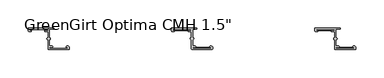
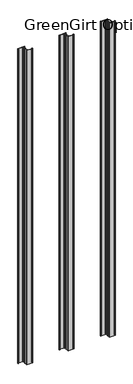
"""IFC4 building model written with IfcOpenShell, lengths in millimetres: fastener geometry."""

from ifc_helpers import new_model, si_unit, frame, origin, origin_with_axes, place, context, project, spatial, polyline, circle_curve, outline, extrude, source, transform, mapped, element, save
from ifc_brep_helpers import plane_surface, cylinder_surface, revolved_surface, advanced_brep


def fastener_85142412(model_context):
    return source(origin(), model_context, "Body", "SolidModel", [
        advanced_brep(
        [(2340.102, -2.794, 2032.0), (2371.471, -2.794, 2032.0), (2371.471, -4.5212, 2032.0), (2367.28, -4.5212, 2032.0), (2367.28, -6.5532, 2032.0), (2371.471, -6.5532, 2032.0), (2372.233, -7.3152, 2032.0), (2372.233, -17.7601563, 2032.0), (2371.3845567, -17.7601563, 2032.0), (2371.3845567, -20.4288947, 2032.0), (2372.233, -20.4288947, 2032.0), (2372.233, -37.3379766, 2032.0), (2372.995, -38.0999766, 2032.0), (2408.8513242, -38.1, 2032.0), (2409.571, -37.3379766, 2032.0), (2409.571, -34.4677766, 2032.0), (2407.539, -32.4357766, 2032.0), (2405.253, -32.4357766, 2032.0), (2405.253, -34.4677766, 2032.0), (2406.269, -34.4677766, 2032.0), (2406.269, -36.1949766, 2032.0), (2374.9, -36.1949766, 2032.0), (2374.9, -34.4677766, 2032.0), (2379.091, -34.4677766, 2032.0), (2379.091, -32.4357766, 2032.0), (2374.9, -32.4357766, 2032.0), (2374.138, -31.6737766, 2032.0), (2374.138, -20.4279799, 2032.0), (2374.9869007, -20.4279799, 2032.0), (2374.9869007, -17.7601563, 2032.0), (2374.138, -17.7601563, 2032.0), (2374.138, -2.667, 2032.0), (2374.9, -1.905, 2032.0), (2380.996, -1.905, 2032.0), (2380.996, 0.0, 2032.0), (2337.562, 0.0, 2032.0), (2336.8, -0.762, 2032.0), (2336.8, -4.5212, 2032.0), (2338.832, -6.5532, 2032.0), (2341.118, -6.5532, 2032.0), (2341.118, -4.5212, 2032.0), (2340.102, -4.5212, 2032.0), (2340.102, -2.794, 0.0), (2340.102, -4.5212, 0.0), (2341.118, -4.5212, 0.0), (2341.118, -6.5532, 0.0), (2338.832, -6.5532, 0.0), (2336.8, -4.5212, 0.0), (2336.8, -0.762, 0.0), (2337.562, 0.0, 0.0), (2380.996, 0.0, 0.0), (2380.996, -1.905, 0.0), (2374.9, -1.905, 0.0), (2374.138, -2.667, 0.0), (2374.138, -17.7601563, 0.0), (2374.9869007, -17.7601563, 0.0), (2374.9869007, -20.4279799, 0.0), (2374.138, -20.4279799, 0.0), (2374.138, -31.6737766, 0.0), (2374.9, -32.4357766, 0.0), (2379.091, -32.4357766, 0.0), (2379.091, -34.4677766, 0.0), (2374.9, -34.4677766, 0.0), (2374.9, -36.1949766, 0.0), (2406.269, -36.1949766, 0.0), (2406.269, -34.4677766, 0.0), (2405.253, -34.4677766, 0.0), (2405.253, -32.4357766, 0.0), (2407.539, -32.4357766, 0.0), (2409.571, -34.4677766, 0.0), (2409.571, -37.3379766, 0.0), (2408.809, -38.0999766, 0.0), (2372.9676774, -38.1, 0.0), (2372.233, -37.3379766, 0.0), (2372.233, -20.4288947, 0.0), (2371.3845567, -20.4288947, 0.0), (2371.3845567, -17.7601563, 0.0), (2372.233, -17.7601563, 0.0), (2372.233, -7.3152, 0.0), (2371.471, -6.5532, 0.0), (2367.28, -6.5532, 0.0), (2367.28, -4.5212, 0.0), (2371.471, -4.5212, 0.0), (2371.471, -2.794, 0.0)],
        [
            (0, 1),
            (1, 2, circle_curve(frame((2371.471, -3.6576, 2032.0), z_axis=(0.0, 0.0, -1.0), x_axis=(1.0, 0.0, 0.0)), 0.8636)),
            (2, 3),
            (3, 4, circle_curve(frame((2367.28, -5.5372, 2032.0), z_axis=(0.0, 0.0, 1.0), x_axis=(1.0, 0.0, 0.0)), 1.016)),
            (4, 5),
            (5, 6, circle_curve(frame((2371.471, -7.3152, 2032.0), z_axis=(0.0, 0.0, -1.0), x_axis=(1.0, 0.0, 0.0)), 0.762)),
            (6, 7),
            (7, 8),
            (8, 9, circle_curve(frame((2371.3845567, -19.0945255, 2032.0), z_axis=(0.0, 0.0, 1.0), x_axis=(1.0, 0.0, 0.0)), 1.3343692)),
            (9, 10),
            (10, 11),
            (11, 12, circle_curve(frame((2372.995, -37.3379766, 2032.0), z_axis=(0.0, 0.0, 1.0), x_axis=(1.0, 0.0, 0.0)), 0.762)),
            (12, 13),
            (13, 14, circle_curve(frame((2408.809, -37.3379766, 2032.0), z_axis=(0.0, 0.0, 1.0), x_axis=(1.0, 0.0, 0.0)), 0.762)),
            (14, 15),
            (15, 16, circle_curve(frame((2407.539, -34.4677766, 2032.0), z_axis=(0.0, 0.0, 1.0), x_axis=(1.0, 0.0, 0.0)), 2.032)),
            (16, 17),
            (17, 18, circle_curve(frame((2405.253, -33.4517766, 2032.0), z_axis=(0.0, 0.0, 1.0), x_axis=(1.0, 0.0, 0.0)), 1.016)),
            (18, 19),
            (19, 20, circle_curve(frame((2406.269, -35.3313766, 2032.0), z_axis=(0.0, 0.0, -1.0), x_axis=(1.0, 0.0, 0.0)), 0.8636)),
            (20, 21),
            (21, 22, circle_curve(frame((2374.9, -35.3313766, 2032.0), z_axis=(0.0, 0.0, -1.0), x_axis=(1.0, 0.0, 0.0)), 0.8636)),
            (22, 23),
            (23, 24, circle_curve(frame((2379.091, -33.4517766, 2032.0), z_axis=(0.0, 0.0, 1.0), x_axis=(1.0, 0.0, 0.0)), 1.016)),
            (24, 25),
            (25, 26, circle_curve(frame((2374.9, -31.6737766, 2032.0), z_axis=(0.0, 0.0, -1.0), x_axis=(1.0, 0.0, 0.0)), 0.762)),
            (26, 27),
            (27, 28),
            (28, 29, circle_curve(frame((2374.9869007, -19.0940681, 2032.0), z_axis=(0.0, 0.0, 1.0), x_axis=(1.0, 0.0, 0.0)), 1.3339118)),
            (29, 30),
            (30, 31),
            (31, 32, circle_curve(frame((2374.9, -2.667, 2032.0), z_axis=(0.0, 0.0, -1.0), x_axis=(1.0, 0.0, 0.0)), 0.762)),
            (32, 33),
            (33, 34, circle_curve(frame((2380.996, -0.9525, 2032.0), z_axis=(0.0, 0.0, 1.0), x_axis=(1.0, 0.0, 0.0)), 0.9525)),
            (34, 35),
            (35, 36, circle_curve(frame((2337.562, -0.762, 2032.0), z_axis=(0.0, 0.0, 1.0), x_axis=(1.0, 0.0, 0.0)), 0.762)),
            (36, 37),
            (37, 38, circle_curve(frame((2338.832, -4.5212, 2032.0), z_axis=(0.0, 0.0, 1.0), x_axis=(1.0, 0.0, 0.0)), 2.032)),
            (38, 39),
            (39, 40, circle_curve(frame((2341.118, -5.5372, 2032.0), z_axis=(0.0, 0.0, 1.0), x_axis=(1.0, 0.0, 0.0)), 1.016)),
            (40, 41),
            (41, 0, circle_curve(frame((2340.102, -3.6576, 2032.0), z_axis=(0.0, 0.0, -1.0), x_axis=(1.0, 0.0, 0.0)), 0.8636)),
            (42, 43, circle_curve(frame((2340.102, -3.6576, 0.0), z_axis=(0.0, 0.0, 1.0), x_axis=(1.0, 0.0, 0.0)), 0.8636)),
            (43, 44),
            (44, 45, circle_curve(frame((2341.118, -5.5372, 0.0), z_axis=(0.0, 0.0, -1.0), x_axis=(1.0, 0.0, 0.0)), 1.016)),
            (45, 46),
            (46, 47, circle_curve(frame((2338.832, -4.5212, 0.0), z_axis=(0.0, 0.0, -1.0), x_axis=(1.0, 0.0, 0.0)), 2.032)),
            (47, 48),
            (48, 49, circle_curve(frame((2337.562, -0.762, 0.0), z_axis=(0.0, 0.0, -1.0), x_axis=(1.0, 0.0, 0.0)), 0.762)),
            (49, 50),
            (50, 51, circle_curve(frame((2380.996, -0.9525, 0.0), z_axis=(0.0, 0.0, -1.0), x_axis=(1.0, 0.0, 0.0)), 0.9525)),
            (51, 52),
            (52, 53, circle_curve(frame((2374.9, -2.667, 0.0), z_axis=(0.0, 0.0, 1.0), x_axis=(1.0, 0.0, 0.0)), 0.762)),
            (53, 54),
            (54, 55),
            (55, 56, circle_curve(frame((2374.9869007, -19.0940681, 0.0), z_axis=(0.0, 0.0, -1.0), x_axis=(1.0, 0.0, 0.0)), 1.3339118)),
            (56, 57),
            (57, 58),
            (58, 59, circle_curve(frame((2374.9, -31.6737766, 0.0), z_axis=(0.0, 0.0, 1.0), x_axis=(1.0, 0.0, 0.0)), 0.762)),
            (59, 60),
            (60, 61, circle_curve(frame((2379.091, -33.4517766, 0.0), z_axis=(0.0, 0.0, -1.0), x_axis=(1.0, 0.0, 0.0)), 1.016)),
            (61, 62),
            (62, 63, circle_curve(frame((2374.9, -35.3313766, 0.0), z_axis=(0.0, 0.0, 1.0), x_axis=(1.0, 0.0, 0.0)), 0.8636)),
            (63, 64),
            (64, 65, circle_curve(frame((2406.269, -35.3313766, 0.0), z_axis=(0.0, 0.0, 1.0), x_axis=(1.0, 0.0, 0.0)), 0.8636)),
            (65, 66),
            (66, 67, circle_curve(frame((2405.253, -33.4517766, 0.0), z_axis=(0.0, 0.0, -1.0), x_axis=(1.0, 0.0, 0.0)), 1.016)),
            (67, 68),
            (68, 69, circle_curve(frame((2407.539, -34.4677766, 0.0), z_axis=(0.0, 0.0, -1.0), x_axis=(1.0, 0.0, 0.0)), 2.032)),
            (69, 70),
            (70, 71, circle_curve(frame((2408.809, -37.3379766, 0.0), z_axis=(0.0, 0.0, -1.0), x_axis=(1.0, 0.0, 0.0)), 0.762)),
            (71, 72),
            (72, 73, circle_curve(frame((2372.995, -37.3379766, 0.0), z_axis=(0.0, 0.0, -1.0), x_axis=(1.0, 0.0, 0.0)), 0.762)),
            (73, 74),
            (74, 75),
            (75, 76, circle_curve(frame((2371.3845567, -19.0945255, 0.0), z_axis=(0.0, 0.0, -1.0), x_axis=(1.0, 0.0, 0.0)), 1.3343692)),
            (76, 77),
            (77, 78),
            (78, 79, circle_curve(frame((2371.471, -7.3152, 0.0), z_axis=(0.0, 0.0, 1.0), x_axis=(1.0, 0.0, 0.0)), 0.762)),
            (79, 80),
            (80, 81, circle_curve(frame((2367.28, -5.5372, 0.0), z_axis=(0.0, 0.0, -1.0), x_axis=(1.0, 0.0, 0.0)), 1.016)),
            (81, 82),
            (82, 83, circle_curve(frame((2371.471, -3.6576, 0.0), z_axis=(0.0, 0.0, 1.0), x_axis=(1.0, 0.0, 0.0)), 0.8636)),
            (83, 42),
            (0, 42),
            (83, 1),
            (82, 2),
            (81, 3),
            (80, 4),
            (79, 5),
            (78, 6),
            (77, 7),
            (76, 8),
            (75, 9),
            (74, 10),
            (73, 11),
            (72, 12),
            (71, 13),
            (70, 14),
            (69, 15),
            (68, 16),
            (67, 17),
            (66, 18),
            (65, 19),
            (64, 20),
            (63, 21),
            (62, 22),
            (61, 23),
            (60, 24),
            (59, 25),
            (58, 26),
            (57, 27),
            (56, 28),
            (55, 29),
            (54, 30),
            (53, 31),
            (52, 32),
            (51, 33),
            (50, 34),
            (49, 35),
            (48, 36),
            (47, 37),
            (46, 38),
            (45, 39),
            (44, 40),
            (43, 41),
        ],
        [
            plane_surface(frame((2371.471, -2.794, 2032.0), z_axis=(0.0, 0.0, 1.0), x_axis=(1.0, 0.0, 0.0))),
            plane_surface(frame((2371.471, -2.794, 0.0), z_axis=(0.0, 0.0, -1.0), x_axis=(-1.0, 0.0, 0.0))),
            plane_surface(frame((2340.102, -2.794, 2032.0), z_axis=(0.0, -1.0, 0.0), x_axis=(0.0, 0.0, -1.0))),
            revolved_surface(polyline([(2372.3346, -3.6576, 0.0), (2372.3346, -3.6576, 2032.0)]), (2371.471, -3.6576, 0.0), (0.0, 0.0, -1.0)),
            plane_surface(frame((2371.471, -4.5212, 2032.0), z_axis=(0.0, 1.0, 0.0), x_axis=(0.0, 0.0, -1.0))),
            cylinder_surface(frame((2367.28, -5.5372, 0.0), z_axis=(0.0, 0.0, 1.0), x_axis=(1.0, 0.0, 0.0)), 1.016),
            plane_surface(frame((2367.28, -6.5532, 2032.0), z_axis=(0.0, -1.0, 0.0), x_axis=(0.0, 0.0, -1.0))),
            revolved_surface(polyline([(2372.233, -7.3152, 0.0), (2372.233, -7.3152, 2032.0)]), (2371.471, -7.3152, 0.0), (0.0, 0.0, -1.0)),
            plane_surface(frame((2372.233, -7.3152, 2032.0), z_axis=(-1.0, 0.0, 0.0), x_axis=(0.0, 0.0, -1.0))),
            plane_surface(frame((2372.233, -17.7601563, 2032.0), z_axis=(0.0, 1.0, 0.0), x_axis=(0.0, 0.0, -1.0))),
            cylinder_surface(frame((2371.3845567, -19.0945255, 0.0), z_axis=(0.0, 0.0, 1.0), x_axis=(1.0, 0.0, 0.0)), 1.3343692),
            plane_surface(frame((2371.3845567, -20.4288947, 2032.0), z_axis=(0.0, -1.0, 0.0), x_axis=(0.0, 0.0, -1.0))),
            plane_surface(frame((2372.233, -20.4288947, 2032.0), z_axis=(-1.0, 0.0, 0.0), x_axis=(0.0, 0.0, -1.0))),
            cylinder_surface(frame((2372.995, -37.3379766, 0.0), z_axis=(0.0, 0.0, 1.0), x_axis=(1.0, 0.0, 0.0)), 0.762),
            plane_surface(frame((2372.9676774, -38.1, 2032.0), z_axis=(0.0, -1.0, 0.0), x_axis=(0.0, 0.0, -1.0))),
            cylinder_surface(frame((2408.809, -37.3379766, 0.0), z_axis=(0.0, 0.0, 1.0), x_axis=(1.0, 0.0, 0.0)), 0.762),
            plane_surface(frame((2409.571, -37.3379766, 2032.0), z_axis=(1.0, 1.3794275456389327e-12, 0.0), x_axis=(0.0, 0.0, -1.0))),
            cylinder_surface(frame((2407.539, -34.4677766, 0.0), z_axis=(0.0, 0.0, 1.0), x_axis=(1.0, 0.0, 0.0)), 2.032),
            plane_surface(frame((2407.539, -32.4357766, 2032.0), z_axis=(0.0, 1.0, 0.0), x_axis=(0.0, 0.0, -1.0))),
            cylinder_surface(frame((2405.253, -33.4517766, 0.0), z_axis=(0.0, 0.0, 1.0), x_axis=(1.0, 0.0, 0.0)), 1.016),
            plane_surface(frame((2405.253, -34.4677766, 2032.0), z_axis=(0.0, -1.0, 0.0), x_axis=(0.0, 0.0, -1.0))),
            revolved_surface(polyline([(2407.1326, -35.3313766, 0.0), (2407.1326, -35.3313766, 2032.0)]), (2406.269, -35.3313766, 0.0), (0.0, 0.0, -1.0)),
            plane_surface(frame((2406.269, -36.1949766, 2032.0), z_axis=(0.0, 1.0, 0.0), x_axis=(0.0, 0.0, -1.0))),
            revolved_surface(polyline([(2375.7636, -35.3313766, 0.0), (2375.7636, -35.3313766, 2032.0)]), (2374.9, -35.3313766, 0.0), (0.0, 0.0, -1.0)),
            plane_surface(frame((2374.9, -34.4677766, 2032.0), z_axis=(0.0, -1.0, 0.0), x_axis=(0.0, 0.0, -1.0))),
            cylinder_surface(frame((2379.091, -33.4517766, 0.0), z_axis=(0.0, 0.0, 1.0), x_axis=(1.0, 0.0, 0.0)), 1.016),
            plane_surface(frame((2379.091, -32.4357766, 2032.0), z_axis=(0.0, 1.0, 0.0), x_axis=(0.0, 0.0, -1.0))),
            revolved_surface(polyline([(2375.6620000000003, -31.6737766, 0.0), (2375.6620000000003, -31.6737766, 2032.0)]), (2374.9, -31.6737766, 0.0), (0.0, 0.0, -1.0)),
            plane_surface(frame((2374.138, -31.6737766, 2032.0), z_axis=(1.0, 0.0, 0.0), x_axis=(0.0, 0.0, -1.0))),
            plane_surface(frame((2374.138, -20.4279799, 2032.0), z_axis=(0.0, -1.0, 0.0), x_axis=(0.0, 0.0, -1.0))),
            cylinder_surface(frame((2374.9869007, -19.0940681, 0.0), z_axis=(0.0, 0.0, 1.0), x_axis=(1.0, 0.0, 0.0)), 1.3339118),
            plane_surface(frame((2374.9869007, -17.7601563, 2032.0), z_axis=(0.0, 1.0, 0.0), x_axis=(0.0, 0.0, -1.0))),
            plane_surface(frame((2374.138, -17.7601563, 2032.0), z_axis=(1.0, 0.0, 0.0), x_axis=(0.0, 0.0, -1.0))),
            revolved_surface(polyline([(2375.6620000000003, -2.667, 0.0), (2375.6620000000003, -2.667, 2032.0)]), (2374.9, -2.667, 0.0), (0.0, 0.0, -1.0)),
            plane_surface(frame((2374.9, -1.905, 2032.0), z_axis=(0.0, -1.0, 0.0), x_axis=(0.0, 0.0, -1.0))),
            cylinder_surface(frame((2380.996, -0.9525, 0.0), z_axis=(0.0, 0.0, 1.0), x_axis=(1.0, 0.0, 0.0)), 0.9525),
            plane_surface(frame((2380.996, 0.0, 2032.0), z_axis=(0.0, 1.0, 0.0), x_axis=(0.0, 0.0, -1.0))),
            cylinder_surface(frame((2337.562, -0.762, 0.0), z_axis=(0.0, 0.0, 1.0), x_axis=(1.0, 0.0, 0.0)), 0.762),
            plane_surface(frame((2336.8, -0.762, 2032.0), z_axis=(-1.0, 2.681638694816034e-11, 0.0), x_axis=(0.0, 0.0, -1.0))),
            cylinder_surface(frame((2338.832, -4.5212, 0.0), z_axis=(0.0, 0.0, 1.0), x_axis=(1.0, 0.0, 0.0)), 2.032),
            plane_surface(frame((2338.832, -6.5532, 2032.0), z_axis=(0.0, -1.0, 0.0), x_axis=(0.0, 0.0, -1.0))),
            cylinder_surface(frame((2341.118, -5.5372, 0.0), z_axis=(0.0, 0.0, 1.0), x_axis=(1.0, 0.0, 0.0)), 1.016),
            plane_surface(frame((2341.118, -4.5212, 2032.0), z_axis=(0.0, 1.0, 0.0), x_axis=(0.0, 0.0, -1.0))),
            revolved_surface(polyline([(2340.9656, -3.6576, 0.0), (2340.9656, -3.6576, 2032.0)]), (2340.102, -3.6576, 0.0), (0.0, 0.0, -1.0)),
        ],
        [
            (0, [[1, 2, 3, 4, 5, 6, 7, 8, 9, 10, 11, 12, 13, 14, 15, 16, 17, 18, 19, 20, 21, 22, 23, 24, 25, 26, 27, 28, 29, 30, 31, 32, 33, 34, 35, 36, 37, 38, 39, 40, 41, 42]]),
            (1, [[43, 44, 45, 46, 47, 48, 49, 50, 51, 52, 53, 54, 55, 56, 57, 58, 59, 60, 61, 62, 63, 64, 65, 66, 67, 68, 69, 70, 71, 72, 73, 74, 75, 76, 77, 78, 79, 80, 81, 82, 83, 84]]),
            (2, [[-1, 85, -84, 86]]),
            (3, [[-2, -86, -83, 87]]),
            (4, [[-3, -87, -82, 88]]),
            (5, [[-4, -88, -81, 89]]),
            (6, [[-5, -89, -80, 90]]),
            (7, [[-6, -90, -79, 91]]),
            (8, [[-7, -91, -78, 92]]),
            (9, [[-8, -92, -77, 93]]),
            (10, [[-9, -93, -76, 94]]),
            (11, [[-10, -94, -75, 95]]),
            (12, [[-11, -95, -74, 96]]),
            (13, [[-12, -96, -73, 97]]),
            (14, [[-13, -97, -72, 98]]),
            (15, [[-14, -98, -71, 99]]),
            (16, [[-15, -99, -70, 100]]),
            (17, [[-16, -100, -69, 101]]),
            (18, [[-17, -101, -68, 102]]),
            (19, [[-18, -102, -67, 103]]),
            (20, [[-19, -103, -66, 104]]),
            (21, [[-20, -104, -65, 105]]),
            (22, [[-21, -105, -64, 106]]),
            (23, [[-22, -106, -63, 107]]),
            (24, [[-23, -107, -62, 108]]),
            (25, [[-24, -108, -61, 109]]),
            (26, [[-25, -109, -60, 110]]),
            (27, [[-26, -110, -59, 111]]),
            (28, [[-27, -111, -58, 112]]),
            (29, [[-28, -112, -57, 113]]),
            (30, [[-29, -113, -56, 114]]),
            (31, [[-30, -114, -55, 115]]),
            (32, [[-31, -115, -54, 116]]),
            (33, [[-32, -116, -53, 117]]),
            (34, [[-33, -117, -52, 118]]),
            (35, [[-34, -118, -51, 119]]),
            (36, [[-35, -119, -50, 120]]),
            (37, [[-36, -120, -49, 121]]),
            (38, [[-37, -121, -48, 122]]),
            (39, [[-38, -122, -47, 123]]),
            (40, [[-39, -123, -46, 124]]),
            (41, [[-40, -124, -45, 125]]),
            (42, [[-41, -125, -44, 126]]),
            (43, [[-42, -126, -43, -85]]),
        ],
    ),
        extrude(outline(polyline([(2371.09, -2.794), (2371.09, -4.5212), (2340.102, -4.5212), (2340.102, -2.794), (2371.09, -2.794)])), origin_with_axes(), (0.0, 0.0, 1.0), 2032.0),
        extrude(outline(polyline([(2406.269, -34.4677766), (2406.269, -36.1949766), (2375.281, -36.1949766), (2375.281, -34.4677766), (2406.269, -34.4677766)])), origin_with_axes(), (0.0, 0.0, 1.0), 2032.0),
        advanced_brep(
        [(2086.102, -2.794, 2032.0), (2117.471, -2.794, 2032.0), (2117.471, -4.5212, 2032.0), (2113.28, -4.5212, 2032.0), (2113.28, -6.5532, 2032.0), (2117.471, -6.5532, 2032.0), (2118.233, -7.3152, 2032.0), (2118.233, -17.7601563, 2032.0), (2117.3845567, -17.7601563, 2032.0), (2117.3845567, -20.4288947, 2032.0), (2118.233, -20.4288947, 2032.0), (2118.233, -37.3379766, 2032.0), (2118.995, -38.0999766, 2032.0), (2154.8513242, -38.1, 2032.0), (2155.571, -37.3379766, 2032.0), (2155.571, -34.4677766, 2032.0), (2153.539, -32.4357766, 2032.0), (2151.253, -32.4357766, 2032.0), (2151.253, -34.4677766, 2032.0), (2152.269, -34.4677766, 2032.0), (2152.269, -36.1949766, 2032.0), (2120.9, -36.1949766, 2032.0), (2120.9, -34.4677766, 2032.0), (2125.091, -34.4677766, 2032.0), (2125.091, -32.4357766, 2032.0), (2120.9, -32.4357766, 2032.0), (2120.138, -31.6737766, 2032.0), (2120.138, -20.4279799, 2032.0), (2120.9869007, -20.4279799, 2032.0), (2120.9869007, -17.7601563, 2032.0), (2120.138, -17.7601563, 2032.0), (2120.138, -2.667, 2032.0), (2120.9, -1.905, 2032.0), (2126.996, -1.905, 2032.0), (2126.996, 0.0, 2032.0), (2083.562, 0.0, 2032.0), (2082.8, -0.762, 2032.0), (2082.8, -4.5212, 2032.0), (2084.832, -6.5532, 2032.0), (2087.118, -6.5532, 2032.0), (2087.118, -4.5212, 2032.0), (2086.102, -4.5212, 2032.0), (2086.102, -2.794, 0.0), (2086.102, -4.5212, 0.0), (2087.118, -4.5212, 0.0), (2087.118, -6.5532, 0.0), (2084.832, -6.5532, 0.0), (2082.8, -4.5212, 0.0), (2082.8, -0.762, 0.0), (2083.562, 0.0, 0.0), (2126.996, 0.0, 0.0), (2126.996, -1.905, 0.0), (2120.9, -1.905, 0.0), (2120.138, -2.667, 0.0), (2120.138, -17.7601563, 0.0), (2120.9869007, -17.7601563, 0.0), (2120.9869007, -20.4279799, 0.0), (2120.138, -20.4279799, 0.0), (2120.138, -31.6737766, 0.0), (2120.9, -32.4357766, 0.0), (2125.091, -32.4357766, 0.0), (2125.091, -34.4677766, 0.0), (2120.9, -34.4677766, 0.0), (2120.9, -36.1949766, 0.0), (2152.269, -36.1949766, 0.0), (2152.269, -34.4677766, 0.0), (2151.253, -34.4677766, 0.0), (2151.253, -32.4357766, 0.0), (2153.539, -32.4357766, 0.0), (2155.571, -34.4677766, 0.0), (2155.571, -37.3379766, 0.0), (2154.809, -38.0999766, 0.0), (2118.9676774, -38.1, 0.0), (2118.233, -37.3379766, 0.0), (2118.233, -20.4288947, 0.0), (2117.3845567, -20.4288947, 0.0), (2117.3845567, -17.7601563, 0.0), (2118.233, -17.7601563, 0.0), (2118.233, -7.3152, 0.0), (2117.471, -6.5532, 0.0), (2113.28, -6.5532, 0.0), (2113.28, -4.5212, 0.0), (2117.471, -4.5212, 0.0), (2117.471, -2.794, 0.0)],
        [
            (0, 1),
            (1, 2, circle_curve(frame((2117.471, -3.6576, 2032.0), z_axis=(0.0, 0.0, -1.0), x_axis=(1.0, 0.0, 0.0)), 0.8636)),
            (2, 3),
            (3, 4, circle_curve(frame((2113.28, -5.5372, 2032.0), z_axis=(0.0, 0.0, 1.0), x_axis=(1.0, 0.0, 0.0)), 1.016)),
            (4, 5),
            (5, 6, circle_curve(frame((2117.471, -7.3152, 2032.0), z_axis=(0.0, 0.0, -1.0), x_axis=(1.0, 0.0, 0.0)), 0.762)),
            (6, 7),
            (7, 8),
            (8, 9, circle_curve(frame((2117.3845567, -19.0945255, 2032.0), z_axis=(0.0, 0.0, 1.0), x_axis=(1.0, 0.0, 0.0)), 1.3343692)),
            (9, 10),
            (10, 11),
            (11, 12, circle_curve(frame((2118.995, -37.3379766, 2032.0), z_axis=(0.0, 0.0, 1.0), x_axis=(1.0, 0.0, 0.0)), 0.762)),
            (12, 13),
            (13, 14, circle_curve(frame((2154.809, -37.3379766, 2032.0), z_axis=(0.0, 0.0, 1.0), x_axis=(1.0, 0.0, 0.0)), 0.762)),
            (14, 15),
            (15, 16, circle_curve(frame((2153.539, -34.4677766, 2032.0), z_axis=(0.0, 0.0, 1.0), x_axis=(1.0, 0.0, 0.0)), 2.032)),
            (16, 17),
            (17, 18, circle_curve(frame((2151.253, -33.4517766, 2032.0), z_axis=(0.0, 0.0, 1.0), x_axis=(1.0, 0.0, 0.0)), 1.016)),
            (18, 19),
            (19, 20, circle_curve(frame((2152.269, -35.3313766, 2032.0), z_axis=(0.0, 0.0, -1.0), x_axis=(1.0, 0.0, 0.0)), 0.8636)),
            (20, 21),
            (21, 22, circle_curve(frame((2120.9, -35.3313766, 2032.0), z_axis=(0.0, 0.0, -1.0), x_axis=(1.0, 0.0, 0.0)), 0.8636)),
            (22, 23),
            (23, 24, circle_curve(frame((2125.091, -33.4517766, 2032.0), z_axis=(0.0, 0.0, 1.0), x_axis=(1.0, 0.0, 0.0)), 1.016)),
            (24, 25),
            (25, 26, circle_curve(frame((2120.9, -31.6737766, 2032.0), z_axis=(0.0, 0.0, -1.0), x_axis=(1.0, 0.0, 0.0)), 0.762)),
            (26, 27),
            (27, 28),
            (28, 29, circle_curve(frame((2120.9869007, -19.0940681, 2032.0), z_axis=(0.0, 0.0, 1.0), x_axis=(1.0, 0.0, 0.0)), 1.3339118)),
            (29, 30),
            (30, 31),
            (31, 32, circle_curve(frame((2120.9, -2.667, 2032.0), z_axis=(0.0, 0.0, -1.0), x_axis=(1.0, 0.0, 0.0)), 0.762)),
            (32, 33),
            (33, 34, circle_curve(frame((2126.996, -0.9525, 2032.0), z_axis=(0.0, 0.0, 1.0), x_axis=(1.0, 0.0, 0.0)), 0.9525)),
            (34, 35),
            (35, 36, circle_curve(frame((2083.562, -0.762, 2032.0), z_axis=(0.0, 0.0, 1.0), x_axis=(1.0, 0.0, 0.0)), 0.762)),
            (36, 37),
            (37, 38, circle_curve(frame((2084.832, -4.5212, 2032.0), z_axis=(0.0, 0.0, 1.0), x_axis=(1.0, 0.0, 0.0)), 2.032)),
            (38, 39),
            (39, 40, circle_curve(frame((2087.118, -5.5372, 2032.0), z_axis=(0.0, 0.0, 1.0), x_axis=(1.0, 0.0, 0.0)), 1.016)),
            (40, 41),
            (41, 0, circle_curve(frame((2086.102, -3.6576, 2032.0), z_axis=(0.0, 0.0, -1.0), x_axis=(1.0, 0.0, 0.0)), 0.8636)),
            (42, 43, circle_curve(frame((2086.102, -3.6576, 0.0), z_axis=(0.0, 0.0, 1.0), x_axis=(1.0, 0.0, 0.0)), 0.8636)),
            (43, 44),
            (44, 45, circle_curve(frame((2087.118, -5.5372, 0.0), z_axis=(0.0, 0.0, -1.0), x_axis=(1.0, 0.0, 0.0)), 1.016)),
            (45, 46),
            (46, 47, circle_curve(frame((2084.832, -4.5212, 0.0), z_axis=(0.0, 0.0, -1.0), x_axis=(1.0, 0.0, 0.0)), 2.032)),
            (47, 48),
            (48, 49, circle_curve(frame((2083.562, -0.762, 0.0), z_axis=(0.0, 0.0, -1.0), x_axis=(1.0, 0.0, 0.0)), 0.762)),
            (49, 50),
            (50, 51, circle_curve(frame((2126.996, -0.9525, 0.0), z_axis=(0.0, 0.0, -1.0), x_axis=(1.0, 0.0, 0.0)), 0.9525)),
            (51, 52),
            (52, 53, circle_curve(frame((2120.9, -2.667, 0.0), z_axis=(0.0, 0.0, 1.0), x_axis=(1.0, 0.0, 0.0)), 0.762)),
            (53, 54),
            (54, 55),
            (55, 56, circle_curve(frame((2120.9869007, -19.0940681, 0.0), z_axis=(0.0, 0.0, -1.0), x_axis=(1.0, 0.0, 0.0)), 1.3339118)),
            (56, 57),
            (57, 58),
            (58, 59, circle_curve(frame((2120.9, -31.6737766, 0.0), z_axis=(0.0, 0.0, 1.0), x_axis=(1.0, 0.0, 0.0)), 0.762)),
            (59, 60),
            (60, 61, circle_curve(frame((2125.091, -33.4517766, 0.0), z_axis=(0.0, 0.0, -1.0), x_axis=(1.0, 0.0, 0.0)), 1.016)),
            (61, 62),
            (62, 63, circle_curve(frame((2120.9, -35.3313766, 0.0), z_axis=(0.0, 0.0, 1.0), x_axis=(1.0, 0.0, 0.0)), 0.8636)),
            (63, 64),
            (64, 65, circle_curve(frame((2152.269, -35.3313766, 0.0), z_axis=(0.0, 0.0, 1.0), x_axis=(1.0, 0.0, 0.0)), 0.8636)),
            (65, 66),
            (66, 67, circle_curve(frame((2151.253, -33.4517766, 0.0), z_axis=(0.0, 0.0, -1.0), x_axis=(1.0, 0.0, 0.0)), 1.016)),
            (67, 68),
            (68, 69, circle_curve(frame((2153.539, -34.4677766, 0.0), z_axis=(0.0, 0.0, -1.0), x_axis=(1.0, 0.0, 0.0)), 2.032)),
            (69, 70),
            (70, 71, circle_curve(frame((2154.809, -37.3379766, 0.0), z_axis=(0.0, 0.0, -1.0), x_axis=(1.0, 0.0, 0.0)), 0.762)),
            (71, 72),
            (72, 73, circle_curve(frame((2118.995, -37.3379766, 0.0), z_axis=(0.0, 0.0, -1.0), x_axis=(1.0, 0.0, 0.0)), 0.762)),
            (73, 74),
            (74, 75),
            (75, 76, circle_curve(frame((2117.3845567, -19.0945255, 0.0), z_axis=(0.0, 0.0, -1.0), x_axis=(1.0, 0.0, 0.0)), 1.3343692)),
            (76, 77),
            (77, 78),
            (78, 79, circle_curve(frame((2117.471, -7.3152, 0.0), z_axis=(0.0, 0.0, 1.0), x_axis=(1.0, 0.0, 0.0)), 0.762)),
            (79, 80),
            (80, 81, circle_curve(frame((2113.28, -5.5372, 0.0), z_axis=(0.0, 0.0, -1.0), x_axis=(1.0, 0.0, 0.0)), 1.016)),
            (81, 82),
            (82, 83, circle_curve(frame((2117.471, -3.6576, 0.0), z_axis=(0.0, 0.0, 1.0), x_axis=(1.0, 0.0, 0.0)), 0.8636)),
            (83, 42),
            (0, 42),
            (83, 1),
            (82, 2),
            (81, 3),
            (80, 4),
            (79, 5),
            (78, 6),
            (77, 7),
            (76, 8),
            (75, 9),
            (74, 10),
            (73, 11),
            (72, 12),
            (71, 13),
            (70, 14),
            (69, 15),
            (68, 16),
            (67, 17),
            (66, 18),
            (65, 19),
            (64, 20),
            (63, 21),
            (62, 22),
            (61, 23),
            (60, 24),
            (59, 25),
            (58, 26),
            (57, 27),
            (56, 28),
            (55, 29),
            (54, 30),
            (53, 31),
            (52, 32),
            (51, 33),
            (50, 34),
            (49, 35),
            (48, 36),
            (47, 37),
            (46, 38),
            (45, 39),
            (44, 40),
            (43, 41),
        ],
        [
            plane_surface(frame((2117.471, -2.794, 2032.0), z_axis=(0.0, 0.0, 1.0), x_axis=(1.0, 0.0, 0.0))),
            plane_surface(frame((2117.471, -2.794, 0.0), z_axis=(0.0, 0.0, -1.0), x_axis=(-1.0, 0.0, 0.0))),
            plane_surface(frame((2086.102, -2.794, 2032.0), z_axis=(0.0, -1.0, 0.0), x_axis=(0.0, 0.0, -1.0))),
            revolved_surface(polyline([(2118.3346, -3.6576, 0.0), (2118.3346, -3.6576, 2032.0)]), (2117.471, -3.6576, 0.0), (0.0, 0.0, -1.0)),
            plane_surface(frame((2117.471, -4.5212, 2032.0), z_axis=(0.0, 1.0, 0.0), x_axis=(0.0, 0.0, -1.0))),
            cylinder_surface(frame((2113.28, -5.5372, 0.0), z_axis=(0.0, 0.0, 1.0), x_axis=(1.0, 0.0, 0.0)), 1.016),
            plane_surface(frame((2113.28, -6.5532, 2032.0), z_axis=(0.0, -1.0, 0.0), x_axis=(0.0, 0.0, -1.0))),
            revolved_surface(polyline([(2118.233, -7.3152, 0.0), (2118.233, -7.3152, 2032.0)]), (2117.471, -7.3152, 0.0), (0.0, 0.0, -1.0)),
            plane_surface(frame((2118.233, -7.3152, 2032.0), z_axis=(-1.0, 0.0, 0.0), x_axis=(0.0, 0.0, -1.0))),
            plane_surface(frame((2118.233, -17.7601563, 2032.0), z_axis=(0.0, 1.0, 0.0), x_axis=(0.0, 0.0, -1.0))),
            cylinder_surface(frame((2117.3845567, -19.0945255, 0.0), z_axis=(0.0, 0.0, 1.0), x_axis=(1.0, 0.0, 0.0)), 1.3343692),
            plane_surface(frame((2117.3845567, -20.4288947, 2032.0), z_axis=(0.0, -1.0, 0.0), x_axis=(0.0, 0.0, -1.0))),
            plane_surface(frame((2118.233, -20.4288947, 2032.0), z_axis=(-1.0, 0.0, 0.0), x_axis=(0.0, 0.0, -1.0))),
            cylinder_surface(frame((2118.995, -37.3379766, 0.0), z_axis=(0.0, 0.0, 1.0), x_axis=(1.0, 0.0, 0.0)), 0.762),
            plane_surface(frame((2118.9676774, -38.1, 2032.0), z_axis=(0.0, -1.0, 0.0), x_axis=(0.0, 0.0, -1.0))),
            cylinder_surface(frame((2154.809, -37.3379766, 0.0), z_axis=(0.0, 0.0, 1.0), x_axis=(1.0, 0.0, 0.0)), 0.762),
            plane_surface(frame((2155.571, -37.3379766, 2032.0), z_axis=(1.0, 1.3794275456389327e-12, 0.0), x_axis=(0.0, 0.0, -1.0))),
            cylinder_surface(frame((2153.539, -34.4677766, 0.0), z_axis=(0.0, 0.0, 1.0), x_axis=(1.0, 0.0, 0.0)), 2.032),
            plane_surface(frame((2153.539, -32.4357766, 2032.0), z_axis=(0.0, 1.0, 0.0), x_axis=(0.0, 0.0, -1.0))),
            cylinder_surface(frame((2151.253, -33.4517766, 0.0), z_axis=(0.0, 0.0, 1.0), x_axis=(1.0, 0.0, 0.0)), 1.016),
            plane_surface(frame((2151.253, -34.4677766, 2032.0), z_axis=(0.0, -1.0, 0.0), x_axis=(0.0, 0.0, -1.0))),
            revolved_surface(polyline([(2153.1326, -35.3313766, 0.0), (2153.1326, -35.3313766, 2032.0)]), (2152.269, -35.3313766, 0.0), (0.0, 0.0, -1.0)),
            plane_surface(frame((2152.269, -36.1949766, 2032.0), z_axis=(0.0, 1.0, 0.0), x_axis=(0.0, 0.0, -1.0))),
            revolved_surface(polyline([(2121.7636, -35.3313766, 0.0), (2121.7636, -35.3313766, 2032.0)]), (2120.9, -35.3313766, 0.0), (0.0, 0.0, -1.0)),
            plane_surface(frame((2120.9, -34.4677766, 2032.0), z_axis=(0.0, -1.0, 0.0), x_axis=(0.0, 0.0, -1.0))),
            cylinder_surface(frame((2125.091, -33.4517766, 0.0), z_axis=(0.0, 0.0, 1.0), x_axis=(1.0, 0.0, 0.0)), 1.016),
            plane_surface(frame((2125.091, -32.4357766, 2032.0), z_axis=(0.0, 1.0, 0.0), x_axis=(0.0, 0.0, -1.0))),
            revolved_surface(polyline([(2121.6620000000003, -31.6737766, 0.0), (2121.6620000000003, -31.6737766, 2032.0)]), (2120.9, -31.6737766, 0.0), (0.0, 0.0, -1.0)),
            plane_surface(frame((2120.138, -31.6737766, 2032.0), z_axis=(1.0, 0.0, 0.0), x_axis=(0.0, 0.0, -1.0))),
            plane_surface(frame((2120.138, -20.4279799, 2032.0), z_axis=(0.0, -1.0, 0.0), x_axis=(0.0, 0.0, -1.0))),
            cylinder_surface(frame((2120.9869007, -19.0940681, 0.0), z_axis=(0.0, 0.0, 1.0), x_axis=(1.0, 0.0, 0.0)), 1.3339118),
            plane_surface(frame((2120.9869007, -17.7601563, 2032.0), z_axis=(0.0, 1.0, 0.0), x_axis=(0.0, 0.0, -1.0))),
            plane_surface(frame((2120.138, -17.7601563, 2032.0), z_axis=(1.0, 0.0, 0.0), x_axis=(0.0, 0.0, -1.0))),
            revolved_surface(polyline([(2121.6620000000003, -2.667, 0.0), (2121.6620000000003, -2.667, 2032.0)]), (2120.9, -2.667, 0.0), (0.0, 0.0, -1.0)),
            plane_surface(frame((2120.9, -1.905, 2032.0), z_axis=(0.0, -1.0, 0.0), x_axis=(0.0, 0.0, -1.0))),
            cylinder_surface(frame((2126.996, -0.9525, 0.0), z_axis=(0.0, 0.0, 1.0), x_axis=(1.0, 0.0, 0.0)), 0.9525),
            plane_surface(frame((2126.996, 0.0, 2032.0), z_axis=(0.0, 1.0, 0.0), x_axis=(0.0, 0.0, -1.0))),
            cylinder_surface(frame((2083.562, -0.762, 0.0), z_axis=(0.0, 0.0, 1.0), x_axis=(1.0, 0.0, 0.0)), 0.762),
            plane_surface(frame((2082.8, -0.762, 2032.0), z_axis=(-1.0, 2.681638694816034e-11, 0.0), x_axis=(0.0, 0.0, -1.0))),
            cylinder_surface(frame((2084.832, -4.5212, 0.0), z_axis=(0.0, 0.0, 1.0), x_axis=(1.0, 0.0, 0.0)), 2.032),
            plane_surface(frame((2084.832, -6.5532, 2032.0), z_axis=(0.0, -1.0, 0.0), x_axis=(0.0, 0.0, -1.0))),
            cylinder_surface(frame((2087.118, -5.5372, 0.0), z_axis=(0.0, 0.0, 1.0), x_axis=(1.0, 0.0, 0.0)), 1.016),
            plane_surface(frame((2087.118, -4.5212, 2032.0), z_axis=(0.0, 1.0, 0.0), x_axis=(0.0, 0.0, -1.0))),
            revolved_surface(polyline([(2086.9656, -3.6576, 0.0), (2086.9656, -3.6576, 2032.0)]), (2086.102, -3.6576, 0.0), (0.0, 0.0, -1.0)),
        ],
        [
            (0, [[1, 2, 3, 4, 5, 6, 7, 8, 9, 10, 11, 12, 13, 14, 15, 16, 17, 18, 19, 20, 21, 22, 23, 24, 25, 26, 27, 28, 29, 30, 31, 32, 33, 34, 35, 36, 37, 38, 39, 40, 41, 42]]),
            (1, [[43, 44, 45, 46, 47, 48, 49, 50, 51, 52, 53, 54, 55, 56, 57, 58, 59, 60, 61, 62, 63, 64, 65, 66, 67, 68, 69, 70, 71, 72, 73, 74, 75, 76, 77, 78, 79, 80, 81, 82, 83, 84]]),
            (2, [[-1, 85, -84, 86]]),
            (3, [[-2, -86, -83, 87]]),
            (4, [[-3, -87, -82, 88]]),
            (5, [[-4, -88, -81, 89]]),
            (6, [[-5, -89, -80, 90]]),
            (7, [[-6, -90, -79, 91]]),
            (8, [[-7, -91, -78, 92]]),
            (9, [[-8, -92, -77, 93]]),
            (10, [[-9, -93, -76, 94]]),
            (11, [[-10, -94, -75, 95]]),
            (12, [[-11, -95, -74, 96]]),
            (13, [[-12, -96, -73, 97]]),
            (14, [[-13, -97, -72, 98]]),
            (15, [[-14, -98, -71, 99]]),
            (16, [[-15, -99, -70, 100]]),
            (17, [[-16, -100, -69, 101]]),
            (18, [[-17, -101, -68, 102]]),
            (19, [[-18, -102, -67, 103]]),
            (20, [[-19, -103, -66, 104]]),
            (21, [[-20, -104, -65, 105]]),
            (22, [[-21, -105, -64, 106]]),
            (23, [[-22, -106, -63, 107]]),
            (24, [[-23, -107, -62, 108]]),
            (25, [[-24, -108, -61, 109]]),
            (26, [[-25, -109, -60, 110]]),
            (27, [[-26, -110, -59, 111]]),
            (28, [[-27, -111, -58, 112]]),
            (29, [[-28, -112, -57, 113]]),
            (30, [[-29, -113, -56, 114]]),
            (31, [[-30, -114, -55, 115]]),
            (32, [[-31, -115, -54, 116]]),
            (33, [[-32, -116, -53, 117]]),
            (34, [[-33, -117, -52, 118]]),
            (35, [[-34, -118, -51, 119]]),
            (36, [[-35, -119, -50, 120]]),
            (37, [[-36, -120, -49, 121]]),
            (38, [[-37, -121, -48, 122]]),
            (39, [[-38, -122, -47, 123]]),
            (40, [[-39, -123, -46, 124]]),
            (41, [[-40, -124, -45, 125]]),
            (42, [[-41, -125, -44, 126]]),
            (43, [[-42, -126, -43, -85]]),
        ],
    ),
        extrude(outline(polyline([(2117.09, -2.794), (2117.09, -4.5212), (2086.102, -4.5212), (2086.102, -2.794), (2117.09, -2.794)])), origin_with_axes(), (0.0, 0.0, 1.0), 2032.0),
        extrude(outline(polyline([(2152.269, -34.4677766), (2152.269, -36.1949766), (2121.281, -36.1949766), (2121.281, -34.4677766), (2152.269, -34.4677766)])), origin_with_axes(), (0.0, 0.0, 1.0), 2032.0),
        advanced_brep(
        [(1832.102, -2.794, 2032.0), (1863.471, -2.794, 2032.0), (1863.471, -4.5212, 2032.0), (1859.28, -4.5212, 2032.0), (1859.28, -6.5532, 2032.0), (1863.471, -6.5532, 2032.0), (1864.233, -7.3152, 2032.0), (1864.233, -17.7601563, 2032.0), (1863.3845567, -17.7601563, 2032.0), (1863.3845567, -20.4288947, 2032.0), (1864.233, -20.4288947, 2032.0), (1864.233, -37.3379766, 2032.0), (1864.995, -38.0999766, 2032.0), (1900.8513242, -38.1, 2032.0), (1901.571, -37.3379766, 2032.0), (1901.571, -34.4677766, 2032.0), (1899.539, -32.4357766, 2032.0), (1897.253, -32.4357766, 2032.0), (1897.253, -34.4677766, 2032.0), (1898.269, -34.4677766, 2032.0), (1898.269, -36.1949766, 2032.0), (1866.9, -36.1949766, 2032.0), (1866.9, -34.4677766, 2032.0), (1871.091, -34.4677766, 2032.0), (1871.091, -32.4357766, 2032.0), (1866.9, -32.4357766, 2032.0), (1866.138, -31.6737766, 2032.0), (1866.138, -20.4279799, 2032.0), (1866.9869007, -20.4279799, 2032.0), (1866.9869007, -17.7601563, 2032.0), (1866.138, -17.7601563, 2032.0), (1866.138, -2.667, 2032.0), (1866.9, -1.905, 2032.0), (1872.996, -1.905, 2032.0), (1872.996, 0.0, 2032.0), (1829.562, 0.0, 2032.0), (1828.8, -0.762, 2032.0), (1828.8, -4.5212, 2032.0), (1830.832, -6.5532, 2032.0), (1833.118, -6.5532, 2032.0), (1833.118, -4.5212, 2032.0), (1832.102, -4.5212, 2032.0), (1832.102, -2.794, 0.0), (1832.102, -4.5212, 0.0), (1833.118, -4.5212, 0.0), (1833.118, -6.5532, 0.0), (1830.832, -6.5532, 0.0), (1828.8, -4.5212, 0.0), (1828.8, -0.762, 0.0), (1829.562, 0.0, 0.0), (1872.996, 0.0, 0.0), (1872.996, -1.905, 0.0), (1866.9, -1.905, 0.0), (1866.138, -2.667, 0.0), (1866.138, -17.7601563, 0.0), (1866.9869007, -17.7601563, 0.0), (1866.9869007, -20.4279799, 0.0), (1866.138, -20.4279799, 0.0), (1866.138, -31.6737766, 0.0), (1866.9, -32.4357766, 0.0), (1871.091, -32.4357766, 0.0), (1871.091, -34.4677766, 0.0), (1866.9, -34.4677766, 0.0), (1866.9, -36.1949766, 0.0), (1898.269, -36.1949766, 0.0), (1898.269, -34.4677766, 0.0), (1897.253, -34.4677766, 0.0), (1897.253, -32.4357766, 0.0), (1899.539, -32.4357766, 0.0), (1901.571, -34.4677766, 0.0), (1901.571, -37.3379766, 0.0), (1900.809, -38.0999766, 0.0), (1864.9676774, -38.1, 0.0), (1864.233, -37.3379766, 0.0), (1864.233, -20.4288947, 0.0), (1863.3845567, -20.4288947, 0.0), (1863.3845567, -17.7601563, 0.0), (1864.233, -17.7601563, 0.0), (1864.233, -7.3152, 0.0), (1863.471, -6.5532, 0.0), (1859.28, -6.5532, 0.0), (1859.28, -4.5212, 0.0), (1863.471, -4.5212, 0.0), (1863.471, -2.794, 0.0)],
        [
            (0, 1),
            (1, 2, circle_curve(frame((1863.471, -3.6576, 2032.0), z_axis=(0.0, 0.0, -1.0), x_axis=(1.0, 0.0, 0.0)), 0.8636)),
            (2, 3),
            (3, 4, circle_curve(frame((1859.28, -5.5372, 2032.0), z_axis=(0.0, 0.0, 1.0), x_axis=(1.0, 0.0, 0.0)), 1.016)),
            (4, 5),
            (5, 6, circle_curve(frame((1863.471, -7.3152, 2032.0), z_axis=(0.0, 0.0, -1.0), x_axis=(1.0, 0.0, 0.0)), 0.762)),
            (6, 7),
            (7, 8),
            (8, 9, circle_curve(frame((1863.3845567, -19.0945255, 2032.0), z_axis=(0.0, 0.0, 1.0), x_axis=(1.0, 0.0, 0.0)), 1.3343692)),
            (9, 10),
            (10, 11),
            (11, 12, circle_curve(frame((1864.995, -37.3379766, 2032.0), z_axis=(0.0, 0.0, 1.0), x_axis=(1.0, 0.0, 0.0)), 0.762)),
            (12, 13),
            (13, 14, circle_curve(frame((1900.809, -37.3379766, 2032.0), z_axis=(0.0, 0.0, 1.0), x_axis=(1.0, 0.0, 0.0)), 0.762)),
            (14, 15),
            (15, 16, circle_curve(frame((1899.539, -34.4677766, 2032.0), z_axis=(0.0, 0.0, 1.0), x_axis=(1.0, 0.0, 0.0)), 2.032)),
            (16, 17),
            (17, 18, circle_curve(frame((1897.253, -33.4517766, 2032.0), z_axis=(0.0, 0.0, 1.0), x_axis=(1.0, 0.0, 0.0)), 1.016)),
            (18, 19),
            (19, 20, circle_curve(frame((1898.269, -35.3313766, 2032.0), z_axis=(0.0, 0.0, -1.0), x_axis=(1.0, 0.0, 0.0)), 0.8636)),
            (20, 21),
            (21, 22, circle_curve(frame((1866.9, -35.3313766, 2032.0), z_axis=(0.0, 0.0, -1.0), x_axis=(1.0, 0.0, 0.0)), 0.8636)),
            (22, 23),
            (23, 24, circle_curve(frame((1871.091, -33.4517766, 2032.0), z_axis=(0.0, 0.0, 1.0), x_axis=(1.0, 0.0, 0.0)), 1.016)),
            (24, 25),
            (25, 26, circle_curve(frame((1866.9, -31.6737766, 2032.0), z_axis=(0.0, 0.0, -1.0), x_axis=(1.0, 0.0, 0.0)), 0.762)),
            (26, 27),
            (27, 28),
            (28, 29, circle_curve(frame((1866.9869007, -19.0940681, 2032.0), z_axis=(0.0, 0.0, 1.0), x_axis=(1.0, 0.0, 0.0)), 1.3339118)),
            (29, 30),
            (30, 31),
            (31, 32, circle_curve(frame((1866.9, -2.667, 2032.0), z_axis=(0.0, 0.0, -1.0), x_axis=(1.0, 0.0, 0.0)), 0.762)),
            (32, 33),
            (33, 34, circle_curve(frame((1872.996, -0.9525, 2032.0), z_axis=(0.0, 0.0, 1.0), x_axis=(1.0, 0.0, 0.0)), 0.9525)),
            (34, 35),
            (35, 36, circle_curve(frame((1829.562, -0.762, 2032.0), z_axis=(0.0, 0.0, 1.0), x_axis=(1.0, 0.0, 0.0)), 0.762)),
            (36, 37),
            (37, 38, circle_curve(frame((1830.832, -4.5212, 2032.0), z_axis=(0.0, 0.0, 1.0), x_axis=(1.0, 0.0, 0.0)), 2.032)),
            (38, 39),
            (39, 40, circle_curve(frame((1833.118, -5.5372, 2032.0), z_axis=(0.0, 0.0, 1.0), x_axis=(1.0, 0.0, 0.0)), 1.016)),
            (40, 41),
            (41, 0, circle_curve(frame((1832.102, -3.6576, 2032.0), z_axis=(0.0, 0.0, -1.0), x_axis=(1.0, 0.0, 0.0)), 0.8636)),
            (42, 43, circle_curve(frame((1832.102, -3.6576, 0.0), z_axis=(0.0, 0.0, 1.0), x_axis=(1.0, 0.0, 0.0)), 0.8636)),
            (43, 44),
            (44, 45, circle_curve(frame((1833.118, -5.5372, 0.0), z_axis=(0.0, 0.0, -1.0), x_axis=(1.0, 0.0, 0.0)), 1.016)),
            (45, 46),
            (46, 47, circle_curve(frame((1830.832, -4.5212, 0.0), z_axis=(0.0, 0.0, -1.0), x_axis=(1.0, 0.0, 0.0)), 2.032)),
            (47, 48),
            (48, 49, circle_curve(frame((1829.562, -0.762, 0.0), z_axis=(0.0, 0.0, -1.0), x_axis=(1.0, 0.0, 0.0)), 0.762)),
            (49, 50),
            (50, 51, circle_curve(frame((1872.996, -0.9525, 0.0), z_axis=(0.0, 0.0, -1.0), x_axis=(1.0, 0.0, 0.0)), 0.9525)),
            (51, 52),
            (52, 53, circle_curve(frame((1866.9, -2.667, 0.0), z_axis=(0.0, 0.0, 1.0), x_axis=(1.0, 0.0, 0.0)), 0.762)),
            (53, 54),
            (54, 55),
            (55, 56, circle_curve(frame((1866.9869007, -19.0940681, 0.0), z_axis=(0.0, 0.0, -1.0), x_axis=(1.0, 0.0, 0.0)), 1.3339118)),
            (56, 57),
            (57, 58),
            (58, 59, circle_curve(frame((1866.9, -31.6737766, 0.0), z_axis=(0.0, 0.0, 1.0), x_axis=(1.0, 0.0, 0.0)), 0.762)),
            (59, 60),
            (60, 61, circle_curve(frame((1871.091, -33.4517766, 0.0), z_axis=(0.0, 0.0, -1.0), x_axis=(1.0, 0.0, 0.0)), 1.016)),
            (61, 62),
            (62, 63, circle_curve(frame((1866.9, -35.3313766, 0.0), z_axis=(0.0, 0.0, 1.0), x_axis=(1.0, 0.0, 0.0)), 0.8636)),
            (63, 64),
            (64, 65, circle_curve(frame((1898.269, -35.3313766, 0.0), z_axis=(0.0, 0.0, 1.0), x_axis=(1.0, 0.0, 0.0)), 0.8636)),
            (65, 66),
            (66, 67, circle_curve(frame((1897.253, -33.4517766, 0.0), z_axis=(0.0, 0.0, -1.0), x_axis=(1.0, 0.0, 0.0)), 1.016)),
            (67, 68),
            (68, 69, circle_curve(frame((1899.539, -34.4677766, 0.0), z_axis=(0.0, 0.0, -1.0), x_axis=(1.0, 0.0, 0.0)), 2.032)),
            (69, 70),
            (70, 71, circle_curve(frame((1900.809, -37.3379766, 0.0), z_axis=(0.0, 0.0, -1.0), x_axis=(1.0, 0.0, 0.0)), 0.762)),
            (71, 72),
            (72, 73, circle_curve(frame((1864.995, -37.3379766, 0.0), z_axis=(0.0, 0.0, -1.0), x_axis=(1.0, 0.0, 0.0)), 0.762)),
            (73, 74),
            (74, 75),
            (75, 76, circle_curve(frame((1863.3845567, -19.0945255, 0.0), z_axis=(0.0, 0.0, -1.0), x_axis=(1.0, 0.0, 0.0)), 1.3343692)),
            (76, 77),
            (77, 78),
            (78, 79, circle_curve(frame((1863.471, -7.3152, 0.0), z_axis=(0.0, 0.0, 1.0), x_axis=(1.0, 0.0, 0.0)), 0.762)),
            (79, 80),
            (80, 81, circle_curve(frame((1859.28, -5.5372, 0.0), z_axis=(0.0, 0.0, -1.0), x_axis=(1.0, 0.0, 0.0)), 1.016)),
            (81, 82),
            (82, 83, circle_curve(frame((1863.471, -3.6576, 0.0), z_axis=(0.0, 0.0, 1.0), x_axis=(1.0, 0.0, 0.0)), 0.8636)),
            (83, 42),
            (0, 42),
            (83, 1),
            (82, 2),
            (81, 3),
            (80, 4),
            (79, 5),
            (78, 6),
            (77, 7),
            (76, 8),
            (75, 9),
            (74, 10),
            (73, 11),
            (72, 12),
            (71, 13),
            (70, 14),
            (69, 15),
            (68, 16),
            (67, 17),
            (66, 18),
            (65, 19),
            (64, 20),
            (63, 21),
            (62, 22),
            (61, 23),
            (60, 24),
            (59, 25),
            (58, 26),
            (57, 27),
            (56, 28),
            (55, 29),
            (54, 30),
            (53, 31),
            (52, 32),
            (51, 33),
            (50, 34),
            (49, 35),
            (48, 36),
            (47, 37),
            (46, 38),
            (45, 39),
            (44, 40),
            (43, 41),
        ],
        [
            plane_surface(frame((1863.471, -2.794, 2032.0), z_axis=(0.0, 0.0, 1.0), x_axis=(1.0, 0.0, 0.0))),
            plane_surface(frame((1863.471, -2.794, 0.0), z_axis=(0.0, 0.0, -1.0), x_axis=(-1.0, 0.0, 0.0))),
            plane_surface(frame((1832.102, -2.794, 2032.0), z_axis=(0.0, -1.0, 0.0), x_axis=(0.0, 0.0, -1.0))),
            revolved_surface(polyline([(1864.3346, -3.6576, 0.0), (1864.3346, -3.6576, 2032.0)]), (1863.471, -3.6576, 0.0), (0.0, 0.0, -1.0)),
            plane_surface(frame((1863.471, -4.5212, 2032.0), z_axis=(0.0, 1.0, 0.0), x_axis=(0.0, 0.0, -1.0))),
            cylinder_surface(frame((1859.28, -5.5372, 0.0), z_axis=(0.0, 0.0, 1.0), x_axis=(1.0, 0.0, 0.0)), 1.016),
            plane_surface(frame((1859.28, -6.5532, 2032.0), z_axis=(0.0, -1.0, 0.0), x_axis=(0.0, 0.0, -1.0))),
            revolved_surface(polyline([(1864.233, -7.3152, 0.0), (1864.233, -7.3152, 2032.0)]), (1863.471, -7.3152, 0.0), (0.0, 0.0, -1.0)),
            plane_surface(frame((1864.233, -7.3152, 2032.0), z_axis=(-1.0, 0.0, 0.0), x_axis=(0.0, 0.0, -1.0))),
            plane_surface(frame((1864.233, -17.7601563, 2032.0), z_axis=(0.0, 1.0, 0.0), x_axis=(0.0, 0.0, -1.0))),
            cylinder_surface(frame((1863.3845567, -19.0945255, 0.0), z_axis=(0.0, 0.0, 1.0), x_axis=(1.0, 0.0, 0.0)), 1.3343692),
            plane_surface(frame((1863.3845567, -20.4288947, 2032.0), z_axis=(0.0, -1.0, 0.0), x_axis=(0.0, 0.0, -1.0))),
            plane_surface(frame((1864.233, -20.4288947, 2032.0), z_axis=(-1.0, 0.0, 0.0), x_axis=(0.0, 0.0, -1.0))),
            cylinder_surface(frame((1864.995, -37.3379766, 0.0), z_axis=(0.0, 0.0, 1.0), x_axis=(1.0, 0.0, 0.0)), 0.762),
            plane_surface(frame((1864.9676774, -38.1, 2032.0), z_axis=(0.0, -1.0, 0.0), x_axis=(0.0, 0.0, -1.0))),
            cylinder_surface(frame((1900.809, -37.3379766, 0.0), z_axis=(0.0, 0.0, 1.0), x_axis=(1.0, 0.0, 0.0)), 0.762),
            plane_surface(frame((1901.571, -37.3379766, 2032.0), z_axis=(1.0, 1.3794275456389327e-12, 0.0), x_axis=(0.0, 0.0, -1.0))),
            cylinder_surface(frame((1899.539, -34.4677766, 0.0), z_axis=(0.0, 0.0, 1.0), x_axis=(1.0, 0.0, 0.0)), 2.032),
            plane_surface(frame((1899.539, -32.4357766, 2032.0), z_axis=(0.0, 1.0, 0.0), x_axis=(0.0, 0.0, -1.0))),
            cylinder_surface(frame((1897.253, -33.4517766, 0.0), z_axis=(0.0, 0.0, 1.0), x_axis=(1.0, 0.0, 0.0)), 1.016),
            plane_surface(frame((1897.253, -34.4677766, 2032.0), z_axis=(0.0, -1.0, 0.0), x_axis=(0.0, 0.0, -1.0))),
            revolved_surface(polyline([(1899.1326, -35.3313766, 0.0), (1899.1326, -35.3313766, 2032.0)]), (1898.269, -35.3313766, 0.0), (0.0, 0.0, -1.0)),
            plane_surface(frame((1898.269, -36.1949766, 2032.0), z_axis=(0.0, 1.0, 0.0), x_axis=(0.0, 0.0, -1.0))),
            revolved_surface(polyline([(1867.7636, -35.3313766, 0.0), (1867.7636, -35.3313766, 2032.0)]), (1866.9, -35.3313766, 0.0), (0.0, 0.0, -1.0)),
            plane_surface(frame((1866.9, -34.4677766, 2032.0), z_axis=(0.0, -1.0, 0.0), x_axis=(0.0, 0.0, -1.0))),
            cylinder_surface(frame((1871.091, -33.4517766, 0.0), z_axis=(0.0, 0.0, 1.0), x_axis=(1.0, 0.0, 0.0)), 1.016),
            plane_surface(frame((1871.091, -32.4357766, 2032.0), z_axis=(0.0, 1.0, 0.0), x_axis=(0.0, 0.0, -1.0))),
            revolved_surface(polyline([(1867.662, -31.6737766, 0.0), (1867.662, -31.6737766, 2032.0)]), (1866.9, -31.6737766, 0.0), (0.0, 0.0, -1.0)),
            plane_surface(frame((1866.138, -31.6737766, 2032.0), z_axis=(1.0, 0.0, 0.0), x_axis=(0.0, 0.0, -1.0))),
            plane_surface(frame((1866.138, -20.4279799, 2032.0), z_axis=(0.0, -1.0, 0.0), x_axis=(0.0, 0.0, -1.0))),
            cylinder_surface(frame((1866.9869007, -19.0940681, 0.0), z_axis=(0.0, 0.0, 1.0), x_axis=(1.0, 0.0, 0.0)), 1.3339118),
            plane_surface(frame((1866.9869007, -17.7601563, 2032.0), z_axis=(0.0, 1.0, 0.0), x_axis=(0.0, 0.0, -1.0))),
            plane_surface(frame((1866.138, -17.7601563, 2032.0), z_axis=(1.0, 0.0, 0.0), x_axis=(0.0, 0.0, -1.0))),
            revolved_surface(polyline([(1867.662, -2.667, 0.0), (1867.662, -2.667, 2032.0)]), (1866.9, -2.667, 0.0), (0.0, 0.0, -1.0)),
            plane_surface(frame((1866.9, -1.905, 2032.0), z_axis=(0.0, -1.0, 0.0), x_axis=(0.0, 0.0, -1.0))),
            cylinder_surface(frame((1872.996, -0.9525, 0.0), z_axis=(0.0, 0.0, 1.0), x_axis=(1.0, 0.0, 0.0)), 0.9525),
            plane_surface(frame((1872.996, 0.0, 2032.0), z_axis=(0.0, 1.0, 0.0), x_axis=(0.0, 0.0, -1.0))),
            cylinder_surface(frame((1829.562, -0.762, 0.0), z_axis=(0.0, 0.0, 1.0), x_axis=(1.0, 0.0, 0.0)), 0.762),
            plane_surface(frame((1828.8, -0.762, 2032.0), z_axis=(-1.0, 2.681638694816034e-11, 0.0), x_axis=(0.0, 0.0, -1.0))),
            cylinder_surface(frame((1830.832, -4.5212, 0.0), z_axis=(0.0, 0.0, 1.0), x_axis=(1.0, 0.0, 0.0)), 2.032),
            plane_surface(frame((1830.832, -6.5532, 2032.0), z_axis=(0.0, -1.0, 0.0), x_axis=(0.0, 0.0, -1.0))),
            cylinder_surface(frame((1833.118, -5.5372, 0.0), z_axis=(0.0, 0.0, 1.0), x_axis=(1.0, 0.0, 0.0)), 1.016),
            plane_surface(frame((1833.118, -4.5212, 2032.0), z_axis=(0.0, 1.0, 0.0), x_axis=(0.0, 0.0, -1.0))),
            revolved_surface(polyline([(1832.9656, -3.6576, 0.0), (1832.9656, -3.6576, 2032.0)]), (1832.102, -3.6576, 0.0), (0.0, 0.0, -1.0)),
        ],
        [
            (0, [[1, 2, 3, 4, 5, 6, 7, 8, 9, 10, 11, 12, 13, 14, 15, 16, 17, 18, 19, 20, 21, 22, 23, 24, 25, 26, 27, 28, 29, 30, 31, 32, 33, 34, 35, 36, 37, 38, 39, 40, 41, 42]]),
            (1, [[43, 44, 45, 46, 47, 48, 49, 50, 51, 52, 53, 54, 55, 56, 57, 58, 59, 60, 61, 62, 63, 64, 65, 66, 67, 68, 69, 70, 71, 72, 73, 74, 75, 76, 77, 78, 79, 80, 81, 82, 83, 84]]),
            (2, [[-1, 85, -84, 86]]),
            (3, [[-2, -86, -83, 87]]),
            (4, [[-3, -87, -82, 88]]),
            (5, [[-4, -88, -81, 89]]),
            (6, [[-5, -89, -80, 90]]),
            (7, [[-6, -90, -79, 91]]),
            (8, [[-7, -91, -78, 92]]),
            (9, [[-8, -92, -77, 93]]),
            (10, [[-9, -93, -76, 94]]),
            (11, [[-10, -94, -75, 95]]),
            (12, [[-11, -95, -74, 96]]),
            (13, [[-12, -96, -73, 97]]),
            (14, [[-13, -97, -72, 98]]),
            (15, [[-14, -98, -71, 99]]),
            (16, [[-15, -99, -70, 100]]),
            (17, [[-16, -100, -69, 101]]),
            (18, [[-17, -101, -68, 102]]),
            (19, [[-18, -102, -67, 103]]),
            (20, [[-19, -103, -66, 104]]),
            (21, [[-20, -104, -65, 105]]),
            (22, [[-21, -105, -64, 106]]),
            (23, [[-22, -106, -63, 107]]),
            (24, [[-23, -107, -62, 108]]),
            (25, [[-24, -108, -61, 109]]),
            (26, [[-25, -109, -60, 110]]),
            (27, [[-26, -110, -59, 111]]),
            (28, [[-27, -111, -58, 112]]),
            (29, [[-28, -112, -57, 113]]),
            (30, [[-29, -113, -56, 114]]),
            (31, [[-30, -114, -55, 115]]),
            (32, [[-31, -115, -54, 116]]),
            (33, [[-32, -116, -53, 117]]),
            (34, [[-33, -117, -52, 118]]),
            (35, [[-34, -118, -51, 119]]),
            (36, [[-35, -119, -50, 120]]),
            (37, [[-36, -120, -49, 121]]),
            (38, [[-37, -121, -48, 122]]),
            (39, [[-38, -122, -47, 123]]),
            (40, [[-39, -123, -46, 124]]),
            (41, [[-40, -124, -45, 125]]),
            (42, [[-41, -125, -44, 126]]),
            (43, [[-42, -126, -43, -85]]),
        ],
    ),
    ])


if __name__ == "__main__":
    model = new_model("IFC4")
    model_context = context("Model", 3, world=origin())
    ifc_project = project(units=[si_unit("LENGTHUNIT", "METRE", prefix="MILLI")], contexts=[model_context])
    site = spatial("IfcSite", under=ifc_project)
    building = spatial("IfcBuilding", under=site)
    placement = place(None, origin())
    fastener_shape = fastener_85142412(model_context)
    element("IfcFastener", 1, ObjectType="Structural-Supporting-Components_Advanced-Architectural-Products_GreenGirt-Optima-CMH-System : GreenGirt Optima CMH 1.5\"", at=placement, inside=building, context=model_context, shape_type="MappedRepresentation", body=[
        mapped(fastener_shape, transform((0.0, 0.0, 0.0), x_axis=(1.0, 0.0, 0.0), y_axis=(0.0, 1.0, 0.0), z_axis=(0.0, 0.0, 1.0))),
    ])
    save(model, "model.ifc")
